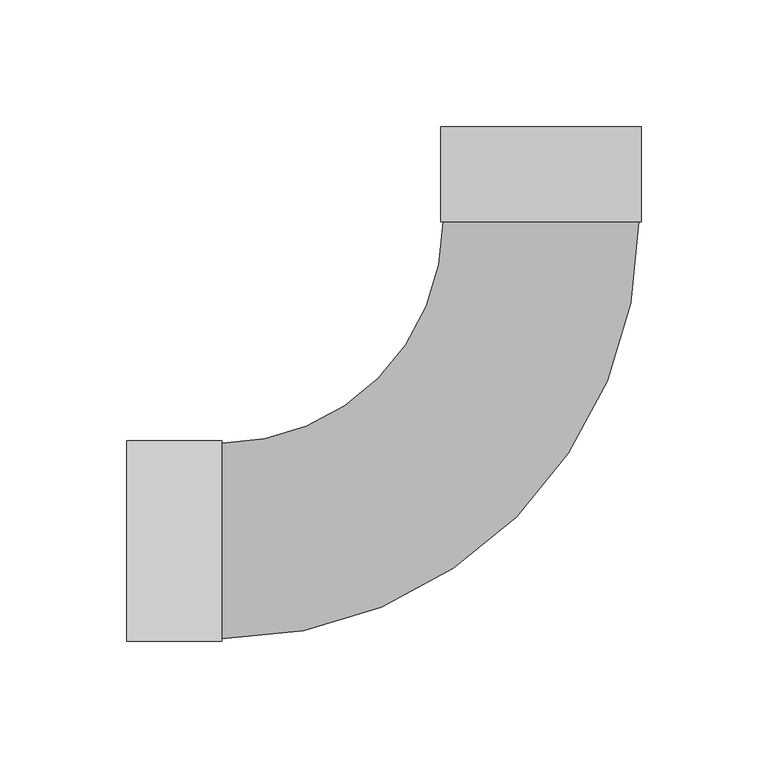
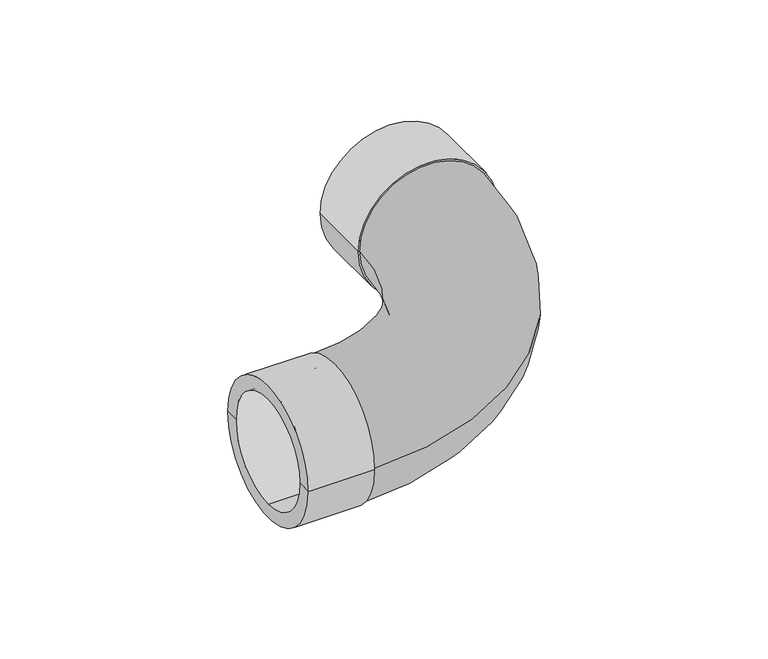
"""IFC4 building model written with IfcOpenShell, lengths in millimetres: pipe fitting geometry, PipeFitting_HTA_CPVC_Bends90° : 63mm x 90°."""

from ifc_helpers import new_model, si_unit, point, frame, origin, place, context, project, spatial, polyline, circle_curve, ellipse_curve, trimmed, source, transform, mapped, element, save
from ifc_brep_helpers import plane_surface, cylinder_surface, revolved_surface, advanced_brep


def pipe_fitting_a5f10939(model_context):
    return source(origin(), model_context, "Body", "AdvancedBrep", [
        advanced_brep(
        [(-126.0, -38.6, 0.0), (38.6, 126.0, 0.0), (-38.6, 126.0, 0.0), (-126.0, 38.6, 0.0), (-126.0, 39.6, 0.0), (-126.0, -39.6, 0.0), (-163.5, -39.6, 0.0), (-163.5, 39.6, 0.0), (-163.5, -31.5, 0.0), (-163.5, 0.0, -31.5), (-163.5, 31.5, 0.0), (-163.5, 0.0, 31.5), (-39.6, 126.0, 0.0), (39.6, 126.0, 0.0), (39.6, 163.5, 0.0), (-39.6, 163.5, 0.0), (-31.5, 163.5, 0.0), (0.0, 163.5, -31.5), (31.5, 163.5, 0.0), (0.0, 163.5, 31.5), (0.0, 126.0, -31.5), (0.0, 126.0, 31.5), (-126.0, 0.0, -31.5), (-126.0, 0.0, 31.5)],
        [
            (0, 1, circle_curve(frame((-126.0, 126.0, 0.0), z_axis=(0.0, 0.0, 1.0), x_axis=(1.0, 0.0, 0.0)), 164.6)),
            (1, 2, circle_curve(frame((0.0, 126.0, 0.0), z_axis=(0.0, -1.0, 0.0), x_axis=(1.0, 0.0, 0.0)), 38.6)),
            (2, 3, circle_curve(frame((-126.0, 126.0, 0.0), z_axis=(0.0, 0.0, -1.0), x_axis=(1.0, 0.0, 0.0)), 87.4)),
            (3, 0, circle_curve(frame((-126.0, 0.0, 0.0), z_axis=(1.0, 0.0, 0.0), x_axis=(0.0, -1.0, 0.0)), 38.6)),
            (0, 3, circle_curve(frame((-126.0, 0.0, 0.0), z_axis=(1.0, 0.0, 0.0), x_axis=(0.0, -1.0, 0.0)), 38.6)),
            (2, 1, circle_curve(frame((0.0, 126.0, 0.0), z_axis=(0.0, -1.0, 0.0), x_axis=(1.0, 0.0, 0.0)), 38.6)),
            (4, 5, circle_curve(frame((-126.0, 0.0, 0.0), z_axis=(-1.0, 0.0, 0.0), x_axis=(0.0, -1.0, 0.0)), 39.6)),
            (5, 6),
            (6, 7, circle_curve(frame((-163.5, 0.0, 0.0), z_axis=(1.0, 0.0, 0.0), x_axis=(0.0, -1.0, 0.0)), 39.6)),
            (7, 4),
            (5, 4, circle_curve(frame((-126.0, 0.0, 0.0), z_axis=(-1.0, 0.0, 0.0), x_axis=(0.0, -1.0, 0.0)), 39.6)),
            (7, 6, circle_curve(frame((-163.5, 0.0, 0.0), z_axis=(1.0, 0.0, 0.0), x_axis=(0.0, -1.0, 0.0)), 39.6)),
            (4, 3),
            (0, 5),
            (6, 8),
            (8, 9, circle_curve(frame((-163.5, 0.0, 0.0), z_axis=(1.0, 0.0, 0.0), x_axis=(0.0, 0.0, 1.0)), 31.5)),
            (9, 10, circle_curve(frame((-163.5, 0.0, 0.0), z_axis=(1.0, 0.0, 0.0), x_axis=(0.0, 0.0, 1.0)), 31.5)),
            (10, 7),
            (10, 11, circle_curve(frame((-163.5, 0.0, 0.0), z_axis=(1.0, 0.0, 0.0), x_axis=(0.0, 0.0, 1.0)), 31.5)),
            (11, 8, circle_curve(frame((-163.5, 0.0, 0.0), z_axis=(1.0, 0.0, 0.0), x_axis=(0.0, 0.0, 1.0)), 31.5)),
            (12, 13, circle_curve(frame((0.0, 126.0, 0.0), z_axis=(0.0, -1.0, 0.0), x_axis=(-1.0, 0.0, 0.0)), 39.6)),
            (13, 1),
            (2, 12),
            (13, 12, circle_curve(frame((0.0, 126.0, 0.0), z_axis=(0.0, -1.0, 0.0), x_axis=(-1.0, 0.0, 0.0)), 39.6)),
            (14, 15, circle_curve(frame((0.0, 163.5, 0.0), z_axis=(0.0, 1.0, 0.0), x_axis=(-1.0, 0.0, 0.0)), 39.6)),
            (15, 16),
            (16, 17, circle_curve(frame((0.0, 163.5, 0.0), z_axis=(0.0, -1.0, 0.0), x_axis=(0.0, 0.0, 1.0)), 31.5)),
            (17, 18, circle_curve(frame((0.0, 163.5, 0.0), z_axis=(0.0, -1.0, 0.0), x_axis=(0.0, 0.0, 1.0)), 31.5)),
            (18, 14),
            (15, 14, circle_curve(frame((0.0, 163.5, 0.0), z_axis=(0.0, 1.0, 0.0), x_axis=(-1.0, 0.0, 0.0)), 39.6)),
            (18, 19, circle_curve(frame((0.0, 163.5, 0.0), z_axis=(0.0, -1.0, 0.0), x_axis=(0.0, 0.0, 1.0)), 31.5)),
            (19, 16, circle_curve(frame((0.0, 163.5, 0.0), z_axis=(0.0, -1.0, 0.0), x_axis=(0.0, 0.0, 1.0)), 31.5)),
            (12, 15),
            (14, 13),
            (20, 21, circle_curve(frame((0.0, 126.0, 0.0), z_axis=(0.0, 1.0, 0.0), x_axis=(0.0, 0.0, 1.0)), 31.5)),
            (21, 20, circle_curve(frame((0.0, 126.0, 0.0), z_axis=(0.0, 1.0, 0.0), x_axis=(0.0, 0.0, 1.0)), 31.5)),
            (21, 19),
            (17, 20),
            (22, 23, circle_curve(frame((-126.0, 0.0, 0.0), z_axis=(-1.0, 0.0, 0.0), x_axis=(0.0, 0.0, 1.0)), 31.5)),
            (23, 22, circle_curve(frame((-126.0, 0.0, 0.0), z_axis=(-1.0, 0.0, 0.0), x_axis=(0.0, 0.0, 1.0)), 31.5)),
            (23, 11),
            (9, 22),
        ],
        [
            revolved_surface(trimmed(ellipse_curve(frame((0.0, 126.0, 0.0), z_axis=(0.0, 1.0, 0.0), x_axis=(1.0, 0.0, 0.0)), 38.6, 38.6), [point((-38.6, 126.0, 0.0))], [point((38.6, 126.0, 0.0))], True, "CARTESIAN"), (-126.0, 126.0, 0.0), (0.0, 0.0, -1.0)),
            revolved_surface(trimmed(ellipse_curve(frame((0.0, 126.0, 0.0), z_axis=(0.0, 1.0, 0.0), x_axis=(1.0, 0.0, 0.0)), 38.6, 38.6), [point((38.6, 126.0, 0.0))], [point((-38.6, 126.0, 0.0))], True, "CARTESIAN"), (-126.0, 126.0, 0.0), (0.0, 0.0, -1.0)),
            cylinder_surface(frame((-126.0, 0.0, 0.0), z_axis=(1.0, 0.0, 0.0), x_axis=(0.0, -1.0, 0.0)), 39.6),
            plane_surface(frame((-126.0, 0.0, 0.0), z_axis=(1.0, 0.0, 0.0), x_axis=(0.0, -1.0, 0.0))),
            plane_surface(frame((-163.5, 0.0, 0.0), z_axis=(-1.0, 0.0, 0.0), x_axis=(0.0, -1.0, 0.0))),
            plane_surface(frame((0.0, 126.0, 0.0), z_axis=(0.0, -1.0, 0.0), x_axis=(-1.0, 0.0, 0.0))),
            plane_surface(frame((0.0, 163.5, 0.0), z_axis=(0.0, 1.0, 0.0), x_axis=(-1.0, 0.0, 0.0))),
            cylinder_surface(frame((0.0, 163.5, 0.0), z_axis=(0.0, -1.0, 0.0), x_axis=(-1.0, 0.0, 0.0)), 39.6),
            plane_surface(frame((0.0, 126.0, 31.5), z_axis=(0.0, 1.0, 0.0), x_axis=(-1.0, 0.0, 0.0))),
            revolved_surface(polyline([(0.0, 126.0, 31.5), (0.0, 163.5, 31.5)]), (0.0, 163.5, 0.0), (0.0, -1.0, 0.0)),
            plane_surface(frame((-126.0, 0.0, 31.5), z_axis=(-1.0, 0.0, 0.0), x_axis=(0.0, -1.0, 0.0))),
            revolved_surface(polyline([(-126.0, 0.0, 31.5), (-163.5, 0.0, 31.5)]), (-163.5, 0.0, 0.0), (1.0, 0.0, 0.0)),
        ],
        [
            (0, [[1, 2, 3, 4]]),
            (1, [[-1, 5, -3, 6]]),
            (2, [[7, 8, 9, 10]]),
            (2, [[-8, 11, -10, 12]]),
            (3, [[-7, 13, -5, 14]]),
            (3, [[-11, -14, -4, -13]]),
            (4, [[-9, 15, 16, 17, 18]]),
            (4, [[-12, -18, 19, 20, -15]]),
            (5, [[21, 22, -6, 23]]),
            (5, [[24, -23, -2, -22]]),
            (6, [[25, 26, 27, 28, 29]]),
            (6, [[30, -29, 31, 32, -26]]),
            (7, [[-21, 33, -25, 34]]),
            (7, [[-24, -34, -30, -33]]),
            (8, [[35, 36]]),
            (9, [[-36, 37, -31, -28, 38]]),
            (9, [[-35, -38, -27, -32, -37]]),
            (10, [[39, 40]]),
            (11, [[-40, 41, -19, -17, 42]]),
            (11, [[-39, -42, -16, -20, -41]]),
        ],
    ),
    ])


if __name__ == "__main__":
    model = new_model("IFC4")
    model_context = context("Model", 3, world=origin())
    ifc_project = project(units=[si_unit("LENGTHUNIT", "METRE", prefix="MILLI")], contexts=[model_context])
    site = spatial("IfcSite", under=ifc_project)
    building = spatial("IfcBuilding", under=site)
    placement = place(None, origin())
    pipe_fitting_shape = pipe_fitting_a5f10939(model_context)
    element("IfcPipeFitting", 1, ObjectType="PipeFitting_HTA_CPVC_Bends90° : 63mm x 90°", at=placement, inside=building, context=model_context, shape_type="MappedRepresentation", body=[
        mapped(pipe_fitting_shape, transform((0.0, 0.0, 0.0), x_axis=(1.0, 0.0, 0.0), y_axis=(0.0, 1.0, 0.0), z_axis=(0.0, 0.0, 1.0))),
    ])
    save(model, "model.ifc")
